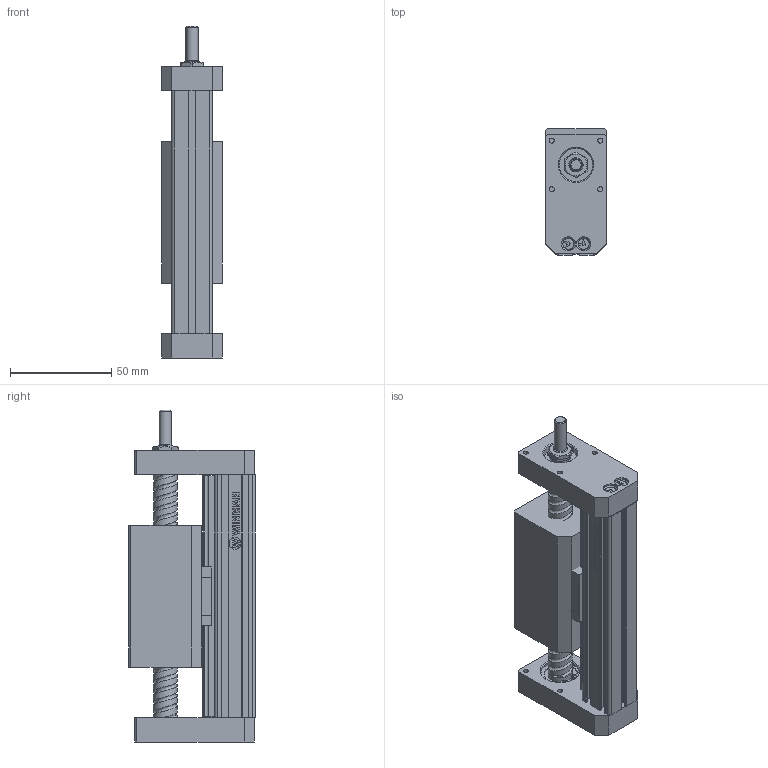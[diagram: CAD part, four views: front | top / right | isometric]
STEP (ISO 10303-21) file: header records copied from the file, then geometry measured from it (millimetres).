
FILE_DESCRIPTION (( 'STEP AP214' ), '1' );
FILE_NAME ('WMAB-020-0050 (3D).STEP', '2025-12-23T08:01:30', ( '' ), ( '' ), 'SwSTEP 2.0', 'SolidWorks 2023', '' );
FILE_SCHEMA (( 'AUTOMOTIVE_DESIGN' ));
Length unit declared in the file: millimetre
Products named in the file (3): Group1^WMAB-020-0050 (3D); Group2^WMAB-020-0050 (3D); WMAB-020-0050 (3D)
Assembly tree (2 placements, depth 2):
  WMAB-020-0050 (3D)
    Group1^WMAB-020-0050 (3D)
    Group2^WMAB-020-0050 (3D)
Bounding box: 30 x 62.5 x 164 mm (x, y, z)
Surface area: 880779.7 mm2
Topology: 350 solids, 476 shells, 15092 faces, 37520 edges, 24668 vertices
Faces by surface type: plane 9310, cylinder 3570, cone 952, bspline 756, torus 448, sphere 56
Full cylindrical faces by diameter (mm): 1.2 x28, 2 x56, 2.5 x224, 3 x392, 3.4 x112, 3.5 x84, 5.5 x280, 5.7 x56, 5.94 x14, 6 x98, 6.5 x56, 7 x126, 7.5 x28, 10 x28, 12 x364, 16.5 x28, 19 x28, 20 x28
Entity records: 837260 total; most frequent: CARTESIAN_POINT 340303, DIRECTION 65600, ORIENTED_EDGE 64820, EDGE_CURVE 32410, VERTEX_POINT 22792, AXIS2_PLACEMENT_3D 21901, VECTOR 21798, LINE 21798
